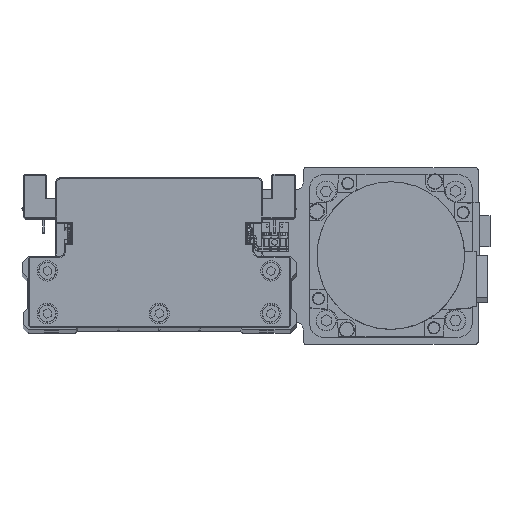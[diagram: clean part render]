
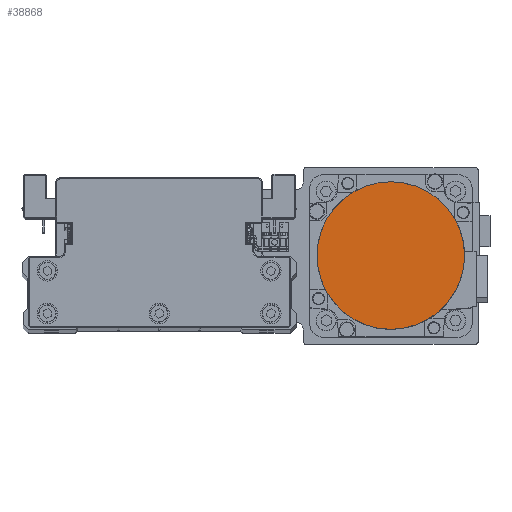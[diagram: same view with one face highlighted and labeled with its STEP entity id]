
A CAD part, top view. The second image highlights one B-rep face of the part: STEP entity #38868.
In plain terms, the highlighted planar face has unit normal (0, 0, 1) as drawn and (0, 0, -1) by its records, which use the part's own axes.
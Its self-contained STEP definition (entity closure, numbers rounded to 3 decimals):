
#2731 = FACE_OUTER_BOUND ( 'NONE', #11579, .T. ) ;
#4117 = CARTESIAN_POINT ( 'NONE',  ( 0., 0., -122.2 ) ) ;
#7634 = ORIENTED_EDGE ( 'NONE', *, *, #8200, .F. ) ;
#8200 = EDGE_CURVE ( 'NONE', #34198, #25125, #13750, .T. ) ;
#9769 = DIRECTION ( 'NONE',  ( 0., 0., 1. ) ) ;
#11579 = EDGE_LOOP ( 'NONE', ( #7634, #35331 ) ) ;
#12121 = DIRECTION ( 'NONE',  ( 1., 0., 0. ) ) ;
#13750 = CIRCLE ( 'NONE', #36521, 36.3 ) ;
#15172 = PLANE ( 'NONE',  #15779 ) ;
#15779 = AXIS2_PLACEMENT_3D ( 'NONE', #27596, #40033, #12121 ) ;
#16559 = DIRECTION ( 'NONE',  ( 0., 0., 1. ) ) ;
#18527 = CARTESIAN_POINT ( 'NONE',  ( 0., -36.3, -122.2 ) ) ;
#18715 = AXIS2_PLACEMENT_3D ( 'NONE', #4117, #16559, #28990 ) ;
#22197 = DIRECTION ( 'NONE',  ( 0., 1., 0. ) ) ;
#25125 = VERTEX_POINT ( 'NONE', #18527 ) ;
#25362 = CARTESIAN_POINT ( 'NONE',  ( 0., 36.3, -122.2 ) ) ;
#27596 = CARTESIAN_POINT ( 'NONE',  ( 0., 0., -122.2 ) ) ;
#28990 = DIRECTION ( 'NONE',  ( 0., -1., 0. ) ) ;
#33061 = EDGE_CURVE ( 'NONE', #25125, #34198, #36280, .T. ) ;
#34198 = VERTEX_POINT ( 'NONE', #25362 ) ;
#35331 = ORIENTED_EDGE ( 'NONE', *, *, #33061, .F. ) ;
#36280 = CIRCLE ( 'NONE', #18715, 36.3 ) ;
#36521 = AXIS2_PLACEMENT_3D ( 'NONE', #37693, #9769, #22197 ) ;
#37693 = CARTESIAN_POINT ( 'NONE',  ( 0., 0., -122.2 ) ) ;
#38868 = ADVANCED_FACE ( 'NONE', ( #2731 ), #15172, .F. ) ;
#40033 = DIRECTION ( 'NONE',  ( 0., 0., 1. ) ) ;
